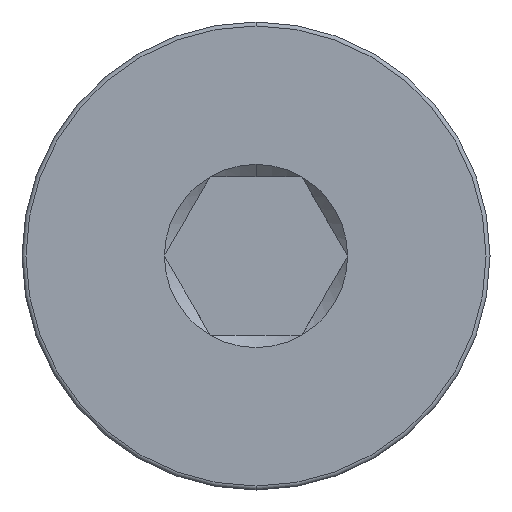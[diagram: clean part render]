
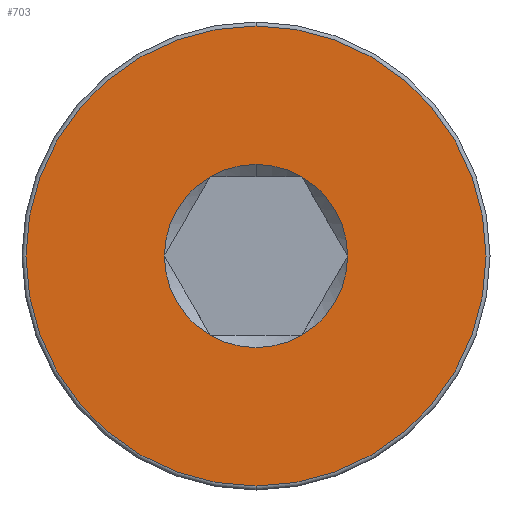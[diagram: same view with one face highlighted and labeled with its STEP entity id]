
A CAD part, left-side view. The second image highlights one B-rep face of the part: STEP entity #703.
In plain terms, the highlighted planar face has unit normal (-1, 0, 0).
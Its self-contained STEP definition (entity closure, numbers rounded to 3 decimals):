
#8 = EDGE_CURVE ( 'NONE', #788, #455, #792, .T. ) ;
#12 = DIRECTION ( 'NONE',  ( 0., 0., -1. ) ) ;
#27 = DIRECTION ( 'NONE',  ( 1., 0., 0. ) ) ;
#33 = VERTEX_POINT ( 'NONE', #591 ) ;
#44 = ORIENTED_EDGE ( 'NONE', *, *, #621, .T. ) ;
#49 = DIRECTION ( 'NONE',  ( 1., 0., 0. ) ) ;
#51 = EDGE_CURVE ( 'NONE', #765, #658, #730, .T. ) ;
#57 = CIRCLE ( 'NONE', #298, 2.309 ) ;
#63 = DIRECTION ( 'NONE',  ( 0., 0., -1. ) ) ;
#66 = DIRECTION ( 'NONE',  ( 0., 0., -1. ) ) ;
#83 = CARTESIAN_POINT ( 'NONE',  ( 0., 0., 0. ) ) ;
#84 = AXIS2_PLACEMENT_3D ( 'NONE', #642, #27, #773 ) ;
#108 = ORIENTED_EDGE ( 'NONE', *, *, #588, .T. ) ;
#113 = DIRECTION ( 'NONE',  ( 0., 0., 1. ) ) ;
#123 = CARTESIAN_POINT ( 'NONE',  ( 0., -2.309, 0. ) ) ;
#138 = ORIENTED_EDGE ( 'NONE', *, *, #169, .T. ) ;
#158 = ORIENTED_EDGE ( 'NONE', *, *, #252, .T. ) ;
#165 = ORIENTED_EDGE ( 'NONE', *, *, #8, .T. ) ;
#166 = CARTESIAN_POINT ( 'NONE',  ( 0., 1.155, -2. ) ) ;
#169 = EDGE_CURVE ( 'NONE', #455, #522, #246, .T. ) ;
#183 = CIRCLE ( 'NONE', #436, 5.8 ) ;
#197 = AXIS2_PLACEMENT_3D ( 'NONE', #425, #49, #297 ) ;
#238 = EDGE_LOOP ( 'NONE', ( #108, #709, #158, #775, #165, #138, #686 ) ) ;
#240 = CARTESIAN_POINT ( 'NONE',  ( 0., 0., 0. ) ) ;
#246 = CIRCLE ( 'NONE', #518, 2.309 ) ;
#247 = DIRECTION ( 'NONE',  ( -1., 0., 0. ) ) ;
#252 = EDGE_CURVE ( 'NONE', #272, #33, #561, .T. ) ;
#253 = CARTESIAN_POINT ( 'NONE',  ( 0., 0., 5.8 ) ) ;
#271 = AXIS2_PLACEMENT_3D ( 'NONE', #769, #600, #653 ) ;
#272 = VERTEX_POINT ( 'NONE', #309 ) ;
#283 = CIRCLE ( 'NONE', #645, 2.309 ) ;
#297 = DIRECTION ( 'NONE',  ( 0., 0., -1. ) ) ;
#298 = AXIS2_PLACEMENT_3D ( 'NONE', #307, #304, #63 ) ;
#300 = CIRCLE ( 'NONE', #486, 2.309 ) ;
#304 = DIRECTION ( 'NONE',  ( 1., 0., 0. ) ) ;
#307 = CARTESIAN_POINT ( 'NONE',  ( 0., 0., 0. ) ) ;
#309 = CARTESIAN_POINT ( 'NONE',  ( 0., 0., 2.309 ) ) ;
#313 = DIRECTION ( 'NONE',  ( 0., 0., -1. ) ) ;
#342 = ORIENTED_EDGE ( 'NONE', *, *, #51, .T. ) ;
#349 = EDGE_CURVE ( 'NONE', #33, #788, #300, .T. ) ;
#353 = DIRECTION ( 'NONE',  ( 1., 0., 0. ) ) ;
#373 = DIRECTION ( 'NONE',  ( 0., 0., -1. ) ) ;
#382 = CARTESIAN_POINT ( 'NONE',  ( 0., 0., 0. ) ) ;
#425 = CARTESIAN_POINT ( 'NONE',  ( 0., 0., 0. ) ) ;
#426 = VERTEX_POINT ( 'NONE', #646 ) ;
#428 = AXIS2_PLACEMENT_3D ( 'NONE', #623, #247, #744 ) ;
#431 = FACE_OUTER_BOUND ( 'NONE', #477, .T. ) ;
#436 = AXIS2_PLACEMENT_3D ( 'NONE', #240, #685, #113 ) ;
#437 = CARTESIAN_POINT ( 'NONE',  ( 0., 0., 0. ) ) ;
#455 = VERTEX_POINT ( 'NONE', #547 ) ;
#477 = EDGE_LOOP ( 'NONE', ( #342, #44 ) ) ;
#486 = AXIS2_PLACEMENT_3D ( 'NONE', #83, #580, #12 ) ;
#493 = CARTESIAN_POINT ( 'NONE',  ( 0., 0., -5.8 ) ) ;
#497 = CARTESIAN_POINT ( 'NONE',  ( 0., 2.309, 0. ) ) ;
#518 = AXIS2_PLACEMENT_3D ( 'NONE', #567, #353, #313 ) ;
#522 = VERTEX_POINT ( 'NONE', #166 ) ;
#547 = CARTESIAN_POINT ( 'NONE',  ( 0., -1.155, -2. ) ) ;
#561 = CIRCLE ( 'NONE', #197, 2.309 ) ;
#567 = CARTESIAN_POINT ( 'NONE',  ( 0., 0., 0. ) ) ;
#571 = PLANE ( 'NONE',  #428 ) ;
#579 = DIRECTION ( 'NONE',  ( 1., 0., 0. ) ) ;
#580 = DIRECTION ( 'NONE',  ( 1., 0., 0. ) ) ;
#585 = VERTEX_POINT ( 'NONE', #497 ) ;
#588 = EDGE_CURVE ( 'NONE', #585, #426, #283, .T. ) ;
#591 = CARTESIAN_POINT ( 'NONE',  ( 0., -1.155, 2. ) ) ;
#600 = DIRECTION ( 'NONE',  ( -1., 0., 0. ) ) ;
#604 = CIRCLE ( 'NONE', #742, 2.309 ) ;
#621 = EDGE_CURVE ( 'NONE', #658, #765, #183, .T. ) ;
#623 = CARTESIAN_POINT ( 'NONE',  ( 0., 0., 0. ) ) ;
#642 = CARTESIAN_POINT ( 'NONE',  ( 0., 0., 0. ) ) ;
#645 = AXIS2_PLACEMENT_3D ( 'NONE', #437, #741, #373 ) ;
#646 = CARTESIAN_POINT ( 'NONE',  ( 0., 1.155, 2. ) ) ;
#652 = EDGE_CURVE ( 'NONE', #522, #585, #57, .T. ) ;
#653 = DIRECTION ( 'NONE',  ( 0., 0., 1. ) ) ;
#658 = VERTEX_POINT ( 'NONE', #493 ) ;
#679 = FACE_BOUND ( 'NONE', #238, .T. ) ;
#685 = DIRECTION ( 'NONE',  ( -1., 0., 0. ) ) ;
#686 = ORIENTED_EDGE ( 'NONE', *, *, #652, .T. ) ;
#703 = ADVANCED_FACE ( 'NONE', ( #431, #679 ), #571, .T. ) ;
#709 = ORIENTED_EDGE ( 'NONE', *, *, #791, .T. ) ;
#730 = CIRCLE ( 'NONE', #271, 5.8 ) ;
#741 = DIRECTION ( 'NONE',  ( 1., 0., 0. ) ) ;
#742 = AXIS2_PLACEMENT_3D ( 'NONE', #382, #579, #66 ) ;
#744 = DIRECTION ( 'NONE',  ( 0., 0., 1. ) ) ;
#765 = VERTEX_POINT ( 'NONE', #253 ) ;
#769 = CARTESIAN_POINT ( 'NONE',  ( 0., 0., 0. ) ) ;
#773 = DIRECTION ( 'NONE',  ( 0., 0., -1. ) ) ;
#775 = ORIENTED_EDGE ( 'NONE', *, *, #349, .T. ) ;
#788 = VERTEX_POINT ( 'NONE', #123 ) ;
#791 = EDGE_CURVE ( 'NONE', #426, #272, #604, .T. ) ;
#792 = CIRCLE ( 'NONE', #84, 2.309 ) ;
